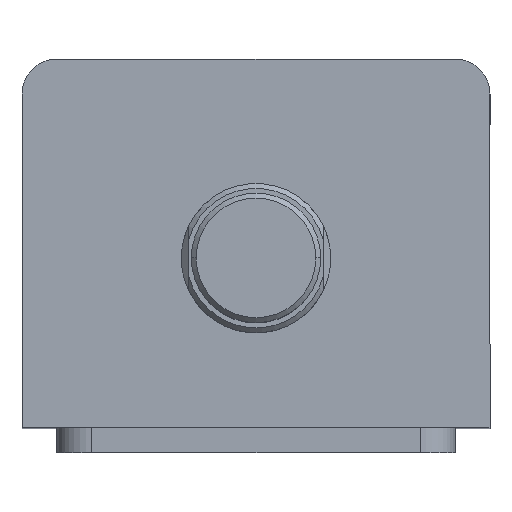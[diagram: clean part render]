
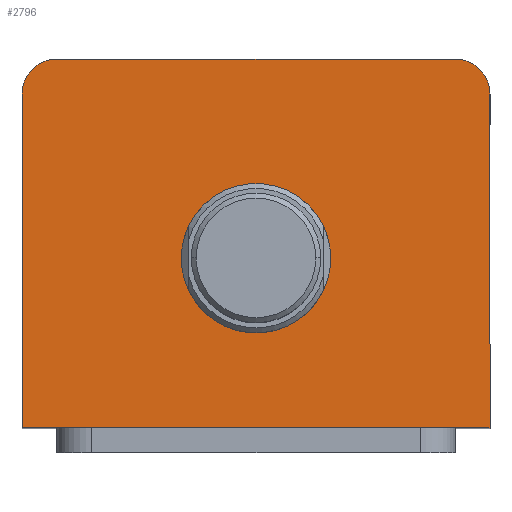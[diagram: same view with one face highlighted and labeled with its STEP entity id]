
A CAD part, top view. The second image highlights one B-rep face of the part: STEP entity #2796.
In plain terms, the highlighted planar face has unit normal (0, 0, 1).
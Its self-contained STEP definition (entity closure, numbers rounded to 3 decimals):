
#316 = EDGE_LOOP ( 'NONE', ( #2506, #2505 ) ) ;
#342 = EDGE_LOOP ( 'NONE', ( #2504, #2503, #2502, #2501, #2500, #2499 ) ) ;
#417 = VERTEX_POINT ( 'NONE', #1690 ) ;
#487 = VERTEX_POINT ( 'NONE', #1781 ) ;
#489 = VERTEX_POINT ( 'NONE', #1778 ) ;
#496 = VERTEX_POINT ( 'NONE', #1771 ) ;
#513 = VERTEX_POINT ( 'NONE', #1751 ) ;
#519 = VERTEX_POINT ( 'NONE', #1745 ) ;
#531 = VERTEX_POINT ( 'NONE', #1732 ) ;
#536 = VERTEX_POINT ( 'NONE', #1722 ) ;
#633 = EDGE_CURVE ( 'NONE', #519, #489, #2957, .T. ) ;
#637 = EDGE_CURVE ( 'NONE', #513, #496, #2968, .T. ) ;
#918 = LINE ( 'NONE', #2287, #920 ) ;
#920 = VECTOR ( 'NONE', #2286, 1000. ) ;
#941 = CIRCLE ( 'NONE', #1844, 7. ) ;
#950 = CIRCLE ( 'NONE', #1842, 15. ) ;
#968 = LINE ( 'NONE', #2175, #971 ) ;
#971 = VECTOR ( 'NONE', #2174, 1000. ) ;
#977 = CIRCLE ( 'NONE', #1835, 7. ) ;
#1013 = FACE_BOUND ( 'NONE', #316, .T. ) ;
#1018 = FACE_OUTER_BOUND ( 'NONE', #342, .T. ) ;
#1133 = DIRECTION ( 'NONE',  ( 1., 0., 0. ) ) ;
#1140 = CARTESIAN_POINT ( 'NONE',  ( 0., -3., 130. ) ) ;
#1145 = DIRECTION ( 'NONE',  ( 0., 0., 1. ) ) ;
#1199 = DIRECTION ( 'NONE',  ( 1., 0., 0. ) ) ;
#1204 = CARTESIAN_POINT ( 'NONE',  ( -47., -37., 130. ) ) ;
#1690 = CARTESIAN_POINT ( 'NONE',  ( 47., 30., 130. ) ) ;
#1722 = CARTESIAN_POINT ( 'NONE',  ( -40., 37., 130. ) ) ;
#1732 = CARTESIAN_POINT ( 'NONE',  ( 40., 37., 130. ) ) ;
#1745 = CARTESIAN_POINT ( 'NONE',  ( -47., -37., 130. ) ) ;
#1751 = CARTESIAN_POINT ( 'NONE',  ( -15., -3., 130. ) ) ;
#1771 = CARTESIAN_POINT ( 'NONE',  ( 15., -3., 130. ) ) ;
#1778 = CARTESIAN_POINT ( 'NONE',  ( 47., -37., 130. ) ) ;
#1781 = CARTESIAN_POINT ( 'NONE',  ( -47., 30., 130. ) ) ;
#1835 = AXIS2_PLACEMENT_3D ( 'NONE', #2153, #2152, #2151 ) ;
#1842 = AXIS2_PLACEMENT_3D ( 'NONE', #2209, #2208, #2207 ) ;
#1844 = AXIS2_PLACEMENT_3D ( 'NONE', #2229, #2227, #2225 ) ;
#1968 = AXIS2_PLACEMENT_3D ( 'NONE', #2076, #2068, #2067 ) ;
#2067 = DIRECTION ( 'NONE',  ( 1., 0., 0. ) ) ;
#2068 = DIRECTION ( 'NONE',  ( 0., 0., 1. ) ) ;
#2075 = PLANE ( 'NONE',  #1968 ) ;
#2076 = CARTESIAN_POINT ( 'NONE',  ( 0., 0., 130. ) ) ;
#2151 = DIRECTION ( 'NONE',  ( 1., 0., 0. ) ) ;
#2152 = DIRECTION ( 'NONE',  ( 0., 0., 1. ) ) ;
#2153 = CARTESIAN_POINT ( 'NONE',  ( 40., 30., 130. ) ) ;
#2174 = DIRECTION ( 'NONE',  ( 0., -1., 0. ) ) ;
#2175 = CARTESIAN_POINT ( 'NONE',  ( -47., 37., 130. ) ) ;
#2207 = DIRECTION ( 'NONE',  ( 1., 0., 0. ) ) ;
#2208 = DIRECTION ( 'NONE',  ( 0., 0., 1. ) ) ;
#2209 = CARTESIAN_POINT ( 'NONE',  ( 0., -3., 130. ) ) ;
#2225 = DIRECTION ( 'NONE',  ( 1., 0., 0. ) ) ;
#2227 = DIRECTION ( 'NONE',  ( 0., 0., 1. ) ) ;
#2229 = CARTESIAN_POINT ( 'NONE',  ( -40., 30., 130. ) ) ;
#2286 = DIRECTION ( 'NONE',  ( 0., 1., 0. ) ) ;
#2287 = CARTESIAN_POINT ( 'NONE',  ( 47., 37., 130. ) ) ;
#2328 = DIRECTION ( 'NONE',  ( -1., 0., 0. ) ) ;
#2332 = CARTESIAN_POINT ( 'NONE',  ( -47., 37., 130. ) ) ;
#2499 = ORIENTED_EDGE ( 'NONE', *, *, #2772, .T. ) ;
#2500 = ORIENTED_EDGE ( 'NONE', *, *, #2735, .T. ) ;
#2501 = ORIENTED_EDGE ( 'NONE', *, *, #633, .T. ) ;
#2502 = ORIENTED_EDGE ( 'NONE', *, *, #2767, .T. ) ;
#2503 = ORIENTED_EDGE ( 'NONE', *, *, #2750, .T. ) ;
#2504 = ORIENTED_EDGE ( 'NONE', *, *, #2687, .T. ) ;
#2505 = ORIENTED_EDGE ( 'NONE', *, *, #637, .F. ) ;
#2506 = ORIENTED_EDGE ( 'NONE', *, *, #2755, .F. ) ;
#2646 = AXIS2_PLACEMENT_3D ( 'NONE', #1140, #1145, #1133 ) ;
#2687 = EDGE_CURVE ( 'NONE', #531, #536, #3083, .T. ) ;
#2735 = EDGE_CURVE ( 'NONE', #489, #417, #918, .T. ) ;
#2750 = EDGE_CURVE ( 'NONE', #536, #487, #941, .T. ) ;
#2755 = EDGE_CURVE ( 'NONE', #496, #513, #950, .T. ) ;
#2767 = EDGE_CURVE ( 'NONE', #487, #519, #968, .T. ) ;
#2772 = EDGE_CURVE ( 'NONE', #417, #531, #977, .T. ) ;
#2796 = ADVANCED_FACE ( 'NONE', ( #1013, #1018 ), #2075, .T. ) ;
#2957 = LINE ( 'NONE', #1204, #2964 ) ;
#2964 = VECTOR ( 'NONE', #1199, 1000. ) ;
#2968 = CIRCLE ( 'NONE', #2646, 15. ) ;
#3083 = LINE ( 'NONE', #2332, #3086 ) ;
#3086 = VECTOR ( 'NONE', #2328, 1000. ) ;
